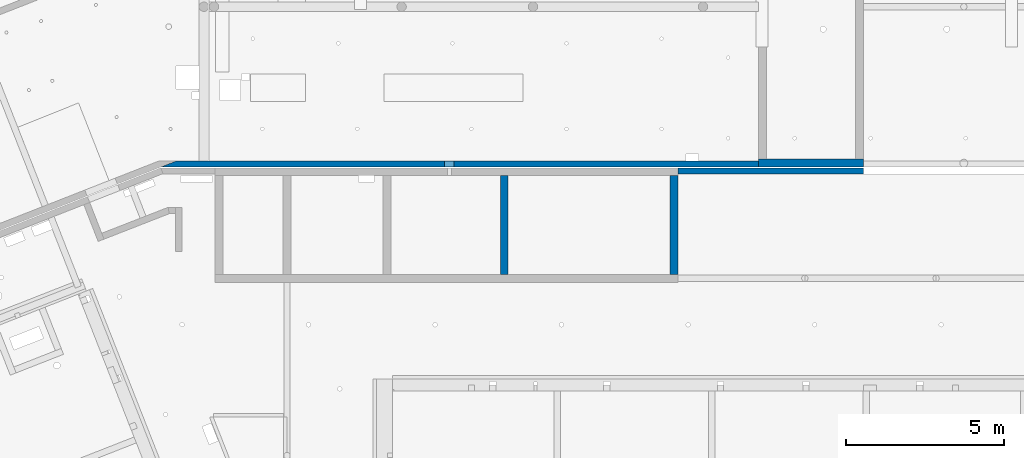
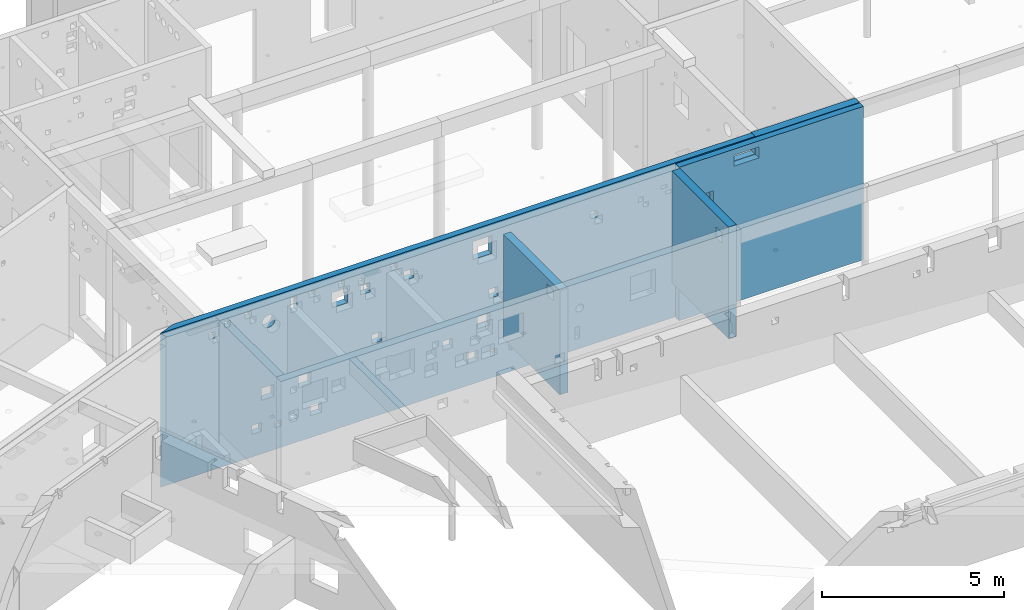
# One storey, part 21 of 28: 5 walls, 43 openings.
"""IFC2X3 building model written with IfcOpenShell, lengths in metres."""

from ifc_helpers import new_model, entity, si_unit, converted_unit, direction, frame, frame_2d, origin, origin_with_axes, place, context, subcontext, project, spatial, polyline, rectangle, outline, extrude, material, layer, layer_set, layer_usage, element, save


model = new_model("IFC2X3")

# Units and contexts
model_context = context("Model", 3, precision=1e-05, world=origin(), true_north=direction((-0.407059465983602, -0.913401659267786)))
body_context = subcontext(model_context, "Body", "Model", "MODEL_VIEW")
ifc_project = project(units=[si_unit("LENGTHUNIT", "METRE"), si_unit("AREAUNIT", "SQUARE_METRE"), si_unit("VOLUMEUNIT", "CUBIC_METRE"), si_unit("MASSUNIT", "GRAM", prefix="KILO"), converted_unit("PLANEANGLEUNIT", "DEGREE", entity("IfcPlaneAngleMeasure", 0.0174532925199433), si_unit("PLANEANGLEUNIT", "RADIAN"), dimensions=[0, 0, 0, 0, 0, 0, 0])], contexts=[model_context])

# Site, buildings, storey
site_placement = place(None, origin())
site = spatial("IfcSite", under=ifc_project, at=site_placement, Name="Site", CompositionType="ELEMENT")
building_1_placement = place(site_placement, origin())
building_1 = spatial("IfcBuilding", under=site, at=building_1_placement, Name="Site", CompositionType="COMPLEX")
building_2_placement = place(building_1_placement, origin())
building_2 = spatial("IfcBuilding", under=building_1, at=building_2_placement, Name="Bâtiments", CompositionType="ELEMENT")
storey_placement = place(building_2_placement, frame((0.0, 0.0, -5.3)))
storey = spatial("IfcBuildingStorey", under=building_2, at=storey_placement, Name="SOUS-SOL", CompositionType="ELEMENT", Elevation=-5.3)

# Wall
ifc_material_1 = material(Name="Béton")
ifc_layer_1 = layer(ifc_material_1, 0.25)
ifc_layer_set_1 = layer_set([ifc_layer_1])
ifc_layer_usage_1 = layer_usage(ifc_layer_set_1, "AXIS2", "POSITIVE", 0.0)
wall_1_placement = place(storey_placement, frame((45.2426440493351, -5.21893030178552, 0.5), z_axis=(0.0, 0.0, 1.0), x_axis=(0.999999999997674, -2.15696744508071e-06, 0.0)))
element("IfcWallStandardCase", 1, at=wall_1_placement, inside=storey, material=ifc_layer_usage_1, context=body_context, shape_type="SweptSolid", body=[
    extrude(rectangle(XDim=3.32205293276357, YDim=0.25, at=frame_2d((1.66102646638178, 0.125), x_axis=(1.0, 0.0))), origin_with_axes(), (0.0, 0.0, 1.0), 4.66),
])

# Wall, openings
ifc_material_2 = material(Name="Béton")
ifc_layer_2 = layer(ifc_material_2, 0.200000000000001)
ifc_layer_set_2 = layer_set([ifc_layer_2])
ifc_layer_usage_2 = layer_usage(ifc_layer_set_2, "AXIS2", "POSITIVE", -0.200000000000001)
wall_2_placement = place(storey_placement, frame((42.6998789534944, -5.43888961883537, 0.0), z_axis=(0.0, 0.0, 1.0), x_axis=(1.0, 4.68204566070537e-10, 0.0)))
wall_2 = element("IfcWallStandardCase", 2, at=wall_2_placement, inside=storey, material=ifc_layer_usage_2, context=body_context, shape_type="SweptSolid", body=[
    extrude(rectangle(XDim=5.86481802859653, YDim=0.200000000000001, at=frame_2d((2.93240901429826, 0.1), x_axis=(1.0, 0.0))), origin_with_axes(), (0.0, 0.0, 1.0), 5.16),
])
opening_1_placement = place(wall_2_placement, frame((2.54276552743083, 0.199999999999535, 4.59), z_axis=(0.0, 0.0, 1.0), x_axis=(-0.999999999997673, 2.15743564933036e-06, 0.0)))
element("IfcOpeningElement", 3, at=opening_1_placement, cuts=wall_2, Name="Percement dans mur", ObjectType="Opening", context=body_context, shape_type="SweptSolid", body=[
    extrude(outline(polyline([(4.31393491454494e-07, 8.86370358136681e-17), (0.799999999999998, 2.16840434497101e-22), (0.800000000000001, 0.200000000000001), (2.50110842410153e-15, 0.2), (4.31393491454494e-07, 8.86370358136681e-17)])), origin_with_axes(), (0.0, 0.0, 1.0), 0.37),
])
opening_2_placement = place(wall_2_placement, frame((0.0366808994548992, -1.76158779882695e-16, 4.39), z_axis=(4.6820456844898e-10, 1.0, 0.0), x_axis=(0.0, 0.0, 1.0)))
element("IfcOpeningElement", 4, at=opening_2_placement, cuts=wall_2, Name="Percement dans mur", ObjectType="Opening", context=body_context, shape_type="SweptSolid", body=[
    extrude(outline(polyline([(0.0, 0.25), (0.25, 0.25), (0.25, 0.0), (0.0, 0.0), (0.0, 0.25)])), origin_with_axes(), (0.0, 0.0, 1.0), 0.200000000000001),
])
opening_3_placement = place(wall_2_placement, frame((0.261527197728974, -5.64372878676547e-08, 4.14), z_axis=(0.0, 0.0, 1.0), x_axis=(0.999999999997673, -2.15743565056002e-06, 0.0)))
element("IfcOpeningElement", 5, at=opening_3_placement, cuts=wall_2, Name="TE-098", ObjectType="Opening", context=body_context, shape_type="SweptSolid", body=[
    extrude(outline(polyline([(4.31393491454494e-07, 8.86375673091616e-17), (0.250000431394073, 0.0), (0.250000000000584, 0.2), (2.25469979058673e-15, 0.2), (4.31393491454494e-07, 8.86375673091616e-17)])), origin_with_axes(), (0.0, 0.0, 1.0), 0.25),
])
opening_4_placement = place(wall_2_placement, frame((0.103879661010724, 2.83677128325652e-07, 3.04), z_axis=(2.15743380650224e-06, 0.999999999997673, 0.0), x_axis=(0.0, 0.0, 1.0)))
element("IfcOpeningElement", 6, at=opening_4_placement, cuts=wall_2, Name="CVC-054", ObjectType="Opening", context=body_context, shape_type="SweptSolid", body=[
    extrude(outline(polyline([(0.0, 1.00000000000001), (0.95, 1.00000000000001), (0.95, 0.0), (0.0, 0.0), (0.0, 1.00000000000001)])), origin_with_axes(), (0.0, 0.0, 1.0), 0.2),
])

ifc_material_3 = material(Name="Béton")
ifc_layer_3 = layer(ifc_material_3, 0.2)
ifc_layer_set_3 = layer_set([ifc_layer_3])
ifc_layer_usage_3 = layer_usage(ifc_layer_set_3, "AXIS2", "POSITIVE", 0.0)
wall_3_placement = place(storey_placement, frame((26.3444156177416, -5.21888953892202, 0.0), z_axis=(0.0, 0.0, 1.0), x_axis=(0.999999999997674, -2.15696744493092e-06, 0.0)))
wall_3 = element("IfcWallStandardCase", 7, at=wall_3_placement, inside=storey, material=ifc_layer_usage_3, context=body_context, shape_type="SweptSolid", body=[
    extrude(outline(polyline([(-8.79241695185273e-11, 4.07628634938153e-05), (18.8982284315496, 4.07628634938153e-05), (18.8982280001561, 0.200040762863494), (0.509737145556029, 0.200040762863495), (-8.79241695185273e-11, 4.07628634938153e-05)])), frame((8.79241695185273e-11, -4.07628634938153e-05, 0.0), z_axis=(0.0, 0.0, 1.0), x_axis=(1.0, 0.0, 0.0)), (0.0, 0.0, 1.0), 5.18),
])
opening_5_placement = place(wall_3_placement, frame((4.34517521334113, 0.200000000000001, 4.41), z_axis=(5.33236743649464e-11, -1.0, 0.0), x_axis=(0.0, 0.0, 1.0)))
element("IfcOpeningElement", 8, at=opening_5_placement, cuts=wall_3, Name="TE-046", ObjectType="Opening", context=body_context, shape_type="SweptSolid", body=[
    extrude(outline(polyline([(0.0, 0.2), (0.5, 0.2), (0.5, 0.0), (0.0, 0.0), (0.0, 0.2)])), origin_with_axes(), (0.0, 0.0, 1.0), 0.200000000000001),
])
opening_6_placement = place(wall_3_placement, frame((18.8982284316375, 0.200000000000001, 4.59), z_axis=(0.0, 0.0, 1.0), x_axis=(-1.0, -1.77635683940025e-16, 0.0)))
element("IfcOpeningElement", 9, at=opening_6_placement, cuts=wall_3, Name="Percement dans mur", ObjectType="Opening", context=body_context, shape_type="SweptSolid", body=[
    extrude(outline(polyline([(4.31393491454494e-07, 8.86370358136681e-17), (0.799999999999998, 2.16840434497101e-22), (0.800000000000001, 0.200000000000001), (2.50110842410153e-15, 0.2), (4.31393491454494e-07, 8.86370358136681e-17)])), origin_with_axes(), (0.0, 0.0, 1.0), 0.37),
])
opening_7_placement = place(wall_3_placement, frame((1.73726358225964, 0.200000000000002, 4.43), z_axis=(5.33202637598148e-11, -1.0, 0.0), x_axis=(0.0, 0.0, 1.0)))
element("IfcOpeningElement", 10, at=opening_7_placement, cuts=wall_3, Name="TE-035", ObjectType="Opening", context=body_context, shape_type="SweptSolid", body=[
    extrude(outline(polyline([(0.0, 0.2), (0.2, 0.2), (0.2, 0.0), (0.0, 0.0), (0.0, 0.2)])), origin_with_axes(), (0.0, 0.0, 1.0), 0.200000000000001),
])
opening_8_placement = place(wall_3_placement, frame((2.22650187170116, 0.200000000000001, 4.64), z_axis=(5.33191268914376e-11, -1.0, 0.0), x_axis=(0.0, 0.0, 1.0)))
element("IfcOpeningElement", 11, at=opening_8_placement, cuts=wall_3, Name="TE-036", ObjectType="Opening", context=body_context, shape_type="SweptSolid", body=[
    extrude(outline(polyline([(0.0, 0.2), (0.2, 0.2), (0.2, 0.0), (0.0, 0.0), (0.0, 0.2)])), origin_with_axes(), (0.0, 0.0, 1.0), 0.200000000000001),
])
opening_9_placement = place(wall_3_placement, frame((2.90962821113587, -8.65982632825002e-16, 0.76), z_axis=(-1.84172677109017e-12, 1.0, 0.0), x_axis=(0.0, 0.0, 1.0)))
element("IfcOpeningElement", 12, at=opening_9_placement, cuts=wall_3, Name="TE-048", ObjectType="Opening", context=body_context, shape_type="SweptSolid", body=[
    extrude(outline(polyline([(0.0, 0.299999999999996), (0.3, 0.299999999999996), (0.3, 0.0), (0.0, 0.0), (0.0, 0.299999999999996)])), origin_with_axes(), (0.0, 0.0, 1.0), 0.200000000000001),
])
opening_10_placement = place(wall_3_placement, frame((3.21411258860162, -2.53047665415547e-06, 1.8), z_axis=(-5.33191268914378e-11, 1.0, 0.0), x_axis=(0.0, 0.0, 1.0)))
element("IfcOpeningElement", 13, at=opening_10_placement, cuts=wall_3, Name="TE-010", ObjectType="Opening", context=body_context, shape_type="SweptSolid", body=[
    extrude(outline(polyline([(0.0, 0.400000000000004), (0.4, 0.400000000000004), (0.4, 0.0), (0.0, 0.0), (0.0, 0.400000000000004)])), origin_with_axes(), (0.0, 0.0, 1.0), 0.2),
])
opening_11_placement = place(wall_3_placement, frame((3.63872864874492, 0.200000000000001, 4.18000000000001), z_axis=(5.33214006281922e-11, -1.0, 0.0), x_axis=(0.0, 0.0, 1.0)))
element("IfcOpeningElement", 14, at=opening_11_placement, cuts=wall_3, Name="CVC-050", ObjectType="Opening", context=body_context, shape_type="SweptSolid", body=[
    extrude(outline(polyline([(0.199999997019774, 0.4), (0.22090569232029, 0.398904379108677), (0.241582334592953, 0.395629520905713), (0.261803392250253, 0.390211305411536), (0.281347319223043, 0.382709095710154), (0.299999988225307, 0.373205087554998), (0.317557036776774, 0.361803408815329), (0.333826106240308, 0.348628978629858), (0.348628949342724, 0.333826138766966), (0.361803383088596, 0.317557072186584), (0.373205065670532, 0.300000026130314), (0.38270907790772, 0.28134735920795), (0.390211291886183, 0.261803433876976), (0.395629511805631, 0.241582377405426), (0.398904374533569, 0.22090573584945), (0.399999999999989, 0.200000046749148), (0.398904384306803, 0.179094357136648), (0.395629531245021, 0.158417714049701), (0.390211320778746, 0.138196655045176), (0.382709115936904, 0.118652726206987), (0.373205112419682, 0.100000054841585), (0.361803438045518, 0.0824430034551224), (0.348629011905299, 0.0661739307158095), (0.333826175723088, 0.0513710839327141), (0.317557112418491, 0.0381966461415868), (0.300000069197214, 0.0267949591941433), (0.281347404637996, 0.0172909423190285), (0.261803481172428, 0.00978872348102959), (0.2415824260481, 0.0043704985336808), (0.220905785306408, 0.00109563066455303), (0.19999990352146, 0.0), (0.179094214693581, 0.00109563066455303), (0.158417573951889, 0.0043704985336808), (0.138196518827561, 0.00978872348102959), (0.118652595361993, 0.0172909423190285), (0.0999999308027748, 0.0267949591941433), (0.0824428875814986, 0.0381966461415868), (0.0661738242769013, 0.0513710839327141), (0.0513709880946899, 0.0661739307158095), (0.0381965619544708, 0.0824430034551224), (0.0267948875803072, 0.100000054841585), (0.0172908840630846, 0.118652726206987), (0.00978867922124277, 0.138196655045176), (0.00437046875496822, 0.158417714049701), (0.00109561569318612, 0.179094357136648), (0.0, 0.200000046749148), (0.00109562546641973, 0.22090573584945), (0.00437048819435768, 0.241582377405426), (0.00978870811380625, 0.261803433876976), (0.0172909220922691, 0.28134735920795), (0.0267949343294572, 0.300000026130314), (0.0381966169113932, 0.317557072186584), (0.0513710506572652, 0.333826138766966), (0.0661738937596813, 0.348628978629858), (0.082442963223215, 0.361803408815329), (0.100000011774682, 0.373205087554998), (0.118652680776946, 0.382709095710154), (0.138196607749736, 0.390211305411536), (0.158417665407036, 0.395629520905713), (0.179094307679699, 0.398904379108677), (0.199999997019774, 0.4)])), origin_with_axes(), (0.0, 0.0, 1.0), 0.2),
])
opening_12_placement = place(wall_3_placement, frame((3.83677843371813, 0.200000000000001, 0.73), z_axis=(5.3321400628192e-11, -1.0, 0.0), x_axis=(0.0, 0.0, 1.0)))
element("IfcOpeningElement", 15, at=opening_12_placement, cuts=wall_3, Name="TE-014", ObjectType="Opening", context=body_context, shape_type="SweptSolid", body=[
    extrude(outline(polyline([(0.0, 0.2), (0.2, 0.2), (0.2, 0.0), (0.0, 0.0), (0.0, 0.2)])), origin_with_axes(), (0.0, 0.0, 1.0), 0.200000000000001),
])
opening_13_placement = place(wall_3_placement, frame((6.48840207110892, 0.200000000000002, 4.58), z_axis=(5.33191268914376e-11, -1.0, 0.0), x_axis=(0.0, 0.0, 1.0)))
element("IfcOpeningElement", 16, at=opening_13_placement, cuts=wall_3, Name="TE-018", ObjectType="Opening", context=body_context, shape_type="SweptSolid", body=[
    extrude(outline(polyline([(0.0, 0.2), (0.2, 0.2), (0.2, 0.0), (0.0, 0.0), (0.0, 0.2)])), origin_with_axes(), (0.0, 0.0, 1.0), 0.200000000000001),
])
opening_14_placement = place(wall_3_placement, frame((6.65795752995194, 0.200000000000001, 4.24), z_axis=(1.84627424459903e-12, -1.0, 0.0), x_axis=(0.0, 0.0, 1.0)))
element("IfcOpeningElement", 17, at=opening_14_placement, cuts=wall_3, Name="TE-053", ObjectType="Opening", context=body_context, shape_type="SweptSolid", body=[
    extrude(outline(polyline([(0.0, 0.3), (0.3, 0.3), (0.3, 0.0), (0.0, 0.0), (0.0, 0.3)])), origin_with_axes(), (0.0, 0.0, 1.0), 0.200000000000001),
])
opening_15_placement = place(wall_3_placement, frame((7.02568880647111, 0.200000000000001, 2.47), z_axis=(1.84172677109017e-12, -1.0, 0.0), x_axis=(0.0, 0.0, 1.0)))
element("IfcOpeningElement", 18, at=opening_15_placement, cuts=wall_3, Name="TE-051", ObjectType="Opening", context=body_context, shape_type="SweptSolid", body=[
    extrude(outline(polyline([(0.0, 0.299999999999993), (0.3, 0.299999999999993), (0.3, 0.0), (0.0, 0.0), (0.0, 0.299999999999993)])), origin_with_axes(), (0.0, 0.0, 1.0), 0.200000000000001),
])
opening_16_placement = place(wall_3_placement, frame((8.17487082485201, 0.2, 4.34), z_axis=(5.33191268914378e-11, -1.0, 0.0), x_axis=(0.0, 0.0, 1.0)))
element("IfcOpeningElement", 19, at=opening_16_placement, cuts=wall_3, Name="TE-063", ObjectType="Opening", context=body_context, shape_type="SweptSolid", body=[
    extrude(outline(polyline([(0.0, 0.0999999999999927), (0.1, 0.0999999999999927), (0.1, 0.0), (0.0, 0.0), (0.0, 0.0999999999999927)])), origin_with_axes(), (0.0, 0.0, 1.0), 0.2),
])
opening_17_placement = place(wall_3_placement, frame((8.04515397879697, 0.20000021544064, 4.24), z_axis=(1.84172677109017e-12, -1.0, 0.0), x_axis=(0.0, 0.0, 1.0)))
element("IfcOpeningElement", 20, at=opening_17_placement, cuts=wall_3, Name="TE-054", ObjectType="Opening", context=body_context, shape_type="SweptSolid", body=[
    extrude(outline(polyline([(0.0, 0.299999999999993), (0.3, 0.299999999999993), (0.3, 0.0), (0.0, 0.0), (0.0, 0.299999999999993)])), origin_with_axes(), (0.0, 0.0, 1.0), 0.200000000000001),
])
opening_18_placement = place(wall_3_placement, frame((13.9016743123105, 0.2, 4.22), z_axis=(1.84627424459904e-12, -1.0, 0.0), x_axis=(0.0, 0.0, 1.0)))
element("IfcOpeningElement", 21, at=opening_18_placement, cuts=wall_3, Name="CVC-053", ObjectType="Opening", context=body_context, shape_type="SweptSolid", body=[
    extrude(outline(polyline([(0.124999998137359, 0.249999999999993), (0.138066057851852, 0.249315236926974), (0.150988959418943, 0.247268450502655), (0.163627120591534, 0.243882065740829), (0.175842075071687, 0.239193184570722), (0.187499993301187, 0.233253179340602), (0.198473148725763, 0.226127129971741), (0.20864131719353, 0.217893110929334), (0.217893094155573, 0.208641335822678), (0.226127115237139, 0.198473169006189), (0.233253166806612, 0.187500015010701), (0.239193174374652, 0.17584209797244), (0.243882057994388, 0.163627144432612), (0.247268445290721, 0.150988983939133), (0.249315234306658, 0.13806608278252), (0.249999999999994, 0.125000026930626), (0.249315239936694, 0.111933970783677), (0.247268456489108, 0.0990110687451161), (0.243882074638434, 0.0863729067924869), (0.239193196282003, 0.0741579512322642), (0.233253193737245, 0.0625000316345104), (0.226127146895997, 0.0515268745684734), (0.217893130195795, 0.0413587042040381), (0.208641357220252, 0.0321069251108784), (0.198473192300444, 0.0238729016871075), (0.187500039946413, 0.0167468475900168), (0.175842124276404, 0.0108068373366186), (0.163627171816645, 0.00611795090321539), (0.150989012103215, 0.00273156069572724), (0.138066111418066, 0.000684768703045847), (0.124999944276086, 0.0), (0.111933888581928, 0.000684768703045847), (0.099010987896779, 0.00273156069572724), (0.0863728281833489, 0.00611795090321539), (0.0741578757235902, 0.0108068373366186), (0.0624999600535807, 0.0167468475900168), (0.0515268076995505, 0.0238729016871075), (0.0413586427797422, 0.0321069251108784), (0.0321068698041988, 0.0413587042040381), (0.0238728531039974, 0.0515268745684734), (0.0167468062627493, 0.0625000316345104), (0.0108068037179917, 0.0741579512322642), (0.00611792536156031, 0.0863729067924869), (0.00273154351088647, 0.0990110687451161), (0.000684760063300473, 0.111933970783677), (0.0, 0.125000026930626), (0.000684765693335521, 0.13806608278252), (0.00273155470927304, 0.150988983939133), (0.00611794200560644, 0.163627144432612), (0.0108068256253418, 0.17584209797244), (0.0167468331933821, 0.187500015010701), (0.0238728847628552, 0.198473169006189), (0.0321069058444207, 0.208641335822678), (0.0413586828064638, 0.217893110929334), (0.0515268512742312, 0.226127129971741), (0.0625000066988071, 0.233253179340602), (0.0741579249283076, 0.239193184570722), (0.0863728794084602, 0.243882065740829), (0.0990110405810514, 0.247268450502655), (0.111933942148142, 0.249315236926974), (0.124999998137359, 0.249999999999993)])), origin_with_axes(), (0.0, 0.0, 1.0), 0.2),
])
opening_19_placement = place(wall_3_placement, frame((16.4593434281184, -2.02421412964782e-16, 3.04), z_axis=(-1.83717929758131e-12, 1.0, 0.0), x_axis=(0.0, 0.0, 1.0)))
element("IfcOpeningElement", 22, at=opening_19_placement, cuts=wall_3, Name="CVC-054", ObjectType="Opening", context=body_context, shape_type="SweptSolid", body=[
    extrude(outline(polyline([(0.0, 1.0), (0.95, 1.0), (0.95, 0.0), (0.0, 0.0), (0.0, 1.0)])), origin_with_axes(), (0.0, 0.0, 1.0), 0.2),
])
opening_20_placement = place(wall_3_placement, frame((16.6169910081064, -6.13745165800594e-17, 4.14), z_axis=(0.0, 0.0, 1.0), x_axis=(1.0, -1.06300895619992e-15, 0.0)))
element("IfcOpeningElement", 23, at=opening_20_placement, cuts=wall_3, Name="TE-098", ObjectType="Opening", context=body_context, shape_type="SweptSolid", body=[
    extrude(outline(polyline([(4.31393491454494e-07, 8.86375673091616e-17), (0.250000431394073, 0.0), (0.250000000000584, 0.2), (2.25469979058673e-15, 0.2), (4.31393491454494e-07, 8.86375673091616e-17)])), origin_with_axes(), (0.0, 0.0, 1.0), 0.25),
])
opening_21_placement = place(wall_3_placement, frame((16.3921442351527, 8.18789480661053e-16, 4.39), z_axis=(-1.83717929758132e-12, 1.0, 0.0), x_axis=(0.0, 0.0, 1.0)))
element("IfcOpeningElement", 24, at=opening_21_placement, cuts=wall_3, Name="TE-070", ObjectType="Opening", context=body_context, shape_type="SweptSolid", body=[
    extrude(outline(polyline([(0.0, 0.25), (0.25, 0.25), (0.25, 0.0), (0.0, 0.0), (0.0, 0.25)])), origin_with_axes(), (0.0, 0.0, 1.0), 0.2),
])
opening_22_placement = place(wall_3_placement, frame((15.9056367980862, -4.80289419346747e-16, 4.45), z_axis=(-5.33236743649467e-11, 1.0, 0.0), x_axis=(0.0, 0.0, 1.0)))
element("IfcOpeningElement", 25, at=opening_22_placement, cuts=wall_3, Name="TE-068", ObjectType="Opening", context=body_context, shape_type="SweptSolid", body=[
    extrude(outline(polyline([(0.0, 0.2), (0.1, 0.2), (0.1, 0.0), (0.0, 0.0), (0.0, 0.2)])), origin_with_axes(), (0.0, 0.0, 1.0), 0.2),
])
opening_23_placement = place(wall_3_placement, frame((15.2006367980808, 1.9893808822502e-17, 4.26), z_axis=(-1.83717929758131e-12, 1.0, 0.0), x_axis=(0.0, 0.0, 1.0)))
element("IfcOpeningElement", 26, at=opening_23_placement, cuts=wall_3, Name="TE-096", ObjectType="Opening", context=body_context, shape_type="SweptSolid", body=[
    extrude(outline(polyline([(0.0, 0.15), (0.15, 0.15), (0.15, 0.0), (0.0, 0.0), (0.0, 0.15)])), origin_with_axes(), (0.0, 0.0, 1.0), 0.200000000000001),
])
opening_24_placement = place(wall_3_placement, frame((12.5612883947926, -3.44210770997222e-16, 1.36), z_axis=(-5.33236743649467e-11, 1.0, 0.0), x_axis=(0.0, 0.0, 1.0)))
element("IfcOpeningElement", 27, at=opening_24_placement, cuts=wall_3, Name="TE-072", ObjectType="Opening", context=body_context, shape_type="SweptSolid", body=[
    extrude(outline(polyline([(0.0, 0.2), (0.2, 0.2), (0.2, 0.0), (0.0, 0.0), (0.0, 0.2)])), origin_with_axes(), (0.0, 0.0, 1.0), 0.2),
])
opening_25_placement = place(wall_3_placement, frame((11.6293156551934, -2.51118570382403e-16, 0.73), z_axis=(-1.84627424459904e-12, 1.0, 0.0), x_axis=(0.0, 0.0, 1.0)))
element("IfcOpeningElement", 28, at=opening_25_placement, cuts=wall_3, Name="TE-050", ObjectType="Opening", context=body_context, shape_type="SweptSolid", body=[
    extrude(outline(polyline([(0.0, 0.35), (0.35, 0.35), (0.35, 0.0), (0.0, 0.0), (0.0, 0.35)])), origin_with_axes(), (0.0, 0.0, 1.0), 0.200000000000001),
])
opening_26_placement = place(wall_3_placement, frame((11.247484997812, 7.83331732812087e-17, 1.8), z_axis=(-5.33145794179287e-11, 1.0, 0.0), x_axis=(0.0, 0.0, 1.0)))
element("IfcOpeningElement", 29, at=opening_26_placement, cuts=wall_3, Name="TE-008", ObjectType="Opening", context=body_context, shape_type="SweptSolid", body=[
    extrude(outline(polyline([(0.0, 0.4), (0.4, 0.4), (0.4, 0.0), (0.0, 0.0), (0.0, 0.4)])), origin_with_axes(), (0.0, 0.0, 1.0), 0.200000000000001),
])
opening_27_placement = place(wall_3_placement, frame((11.0742298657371, 1.07848372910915e-07, 0.73), z_axis=(-5.33145794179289e-11, 1.0, 0.0), x_axis=(0.0, 0.0, 1.0)))
element("IfcOpeningElement", 30, at=opening_27_placement, cuts=wall_3, Name="TE-017", ObjectType="Opening", context=body_context, shape_type="SweptSolid", body=[
    extrude(outline(polyline([(0.0, 0.1), (0.2, 0.1), (0.2, 0.0), (0.0, 0.0), (0.0, 0.1)])), origin_with_axes(), (0.0, 0.0, 1.0), 0.2),
])
opening_28_placement = place(wall_3_placement, frame((10.4356888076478, 1.07848372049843e-07, 2.69), z_axis=(-1.84627424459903e-12, 1.0, 0.0), x_axis=(0.0, 0.0, 1.0)))
element("IfcOpeningElement", 31, at=opening_28_placement, cuts=wall_3, Name="TE-065", ObjectType="Opening", context=body_context, shape_type="SweptSolid", body=[
    extrude(outline(polyline([(0.0, 0.299999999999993), (0.3, 0.299999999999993), (0.3, 0.0), (0.0, 0.0), (0.0, 0.299999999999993)])), origin_with_axes(), (0.0, 0.0, 1.0), 0.200000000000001),
])
opening_29_placement = place(wall_3_placement, frame((10.4971030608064, -6.05978114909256e-15, 0.73), z_axis=(-5.33236743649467e-11, 1.0, 0.0), x_axis=(0.0, 0.0, 1.0)))
element("IfcOpeningElement", 32, at=opening_29_placement, cuts=wall_3, Name="TE-016", ObjectType="Opening", context=body_context, shape_type="SweptSolid", body=[
    extrude(outline(polyline([(0.0, 0.2), (0.2, 0.2), (0.2, 0.0), (0.0, 0.0), (0.0, 0.2)])), origin_with_axes(), (0.0, 0.0, 1.0), 0.2),
])
opening_30_placement = place(wall_3_placement, frame((9.74892821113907, -2.49137516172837e-16, 0.73), z_axis=(-1.83717929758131e-12, 1.0, 0.0), x_axis=(0.0, 0.0, 1.0)))
element("IfcOpeningElement", 33, at=opening_30_placement, cuts=wall_3, Name="TE-049", ObjectType="Opening", context=body_context, shape_type="SweptSolid", body=[
    extrude(outline(polyline([(0.0, 0.35), (0.35, 0.35), (0.35, 0.0), (0.0, 0.0), (0.0, 0.35)])), origin_with_axes(), (0.0, 0.0, 1.0), 0.200000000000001),
])
opening_31_placement = place(wall_3_placement, frame((10.0741009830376, 9.23983112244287e-16, 1.8), z_axis=(-5.33236743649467e-11, 1.0, 0.0), x_axis=(0.0, 0.0, 1.0)))
element("IfcOpeningElement", 34, at=opening_31_placement, cuts=wall_3, Name="TE-007", ObjectType="Opening", context=body_context, shape_type="SweptSolid", body=[
    extrude(outline(polyline([(0.0, 0.4), (0.4, 0.4), (0.4, 0.0), (0.0, 0.0), (0.0, 0.4)])), origin_with_axes(), (0.0, 0.0, 1.0), 0.2),
])
opening_32_placement = place(wall_3_placement, frame((9.93020403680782, 1.26885444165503e-11, 4.18), z_axis=(-1.84627424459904e-12, 1.0, 0.0), x_axis=(0.0, 0.0, 1.0)))
element("IfcOpeningElement", 35, at=opening_32_placement, cuts=wall_3, Name="CVC-052", ObjectType="Opening", context=body_context, shape_type="SweptSolid", body=[
    extrude(outline(polyline([(0.0, 0.6), (0.6, 0.6), (0.6, 0.0), (0.0, 0.0), (0.0, 0.6)])), origin_with_axes(), (0.0, 0.0, 1.0), 0.200000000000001),
])
opening_33_placement = place(wall_3_placement, frame((9.28148046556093, 0.200000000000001, 1.46), z_axis=(1.84627424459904e-12, -1.0, 0.0), x_axis=(0.0, 0.0, 1.0)))
element("IfcOpeningElement", 36, at=opening_33_placement, cuts=wall_3, Name="TE-101", ObjectType="Opening", context=body_context, shape_type="SweptSolid", body=[
    extrude(outline(polyline([(0.0, 0.3), (0.3, 0.3), (0.3, 0.0), (0.0, 0.0), (0.0, 0.3)])), origin_with_axes(), (0.0, 0.0, 1.0), 0.200000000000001),
])
opening_34_placement = place(wall_3_placement, frame((4.76642791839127, -1.79564522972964e-15, 0.73), z_axis=(-1.84627424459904e-12, 1.0, 0.0), x_axis=(0.0, 0.0, 1.0)))
element("IfcOpeningElement", 37, at=opening_34_placement, cuts=wall_3, Name="TE-047", ObjectType="Opening", context=body_context, shape_type="SweptSolid", body=[
    extrude(outline(polyline([(0.0, 0.349999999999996), (0.35, 0.349999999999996), (0.35, 0.0), (0.0, 0.0), (0.0, 0.349999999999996)])), origin_with_axes(), (0.0, 0.0, 1.0), 0.200000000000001),
])
opening_35_placement = place(wall_3_placement, frame((4.38727663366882, -1.37616480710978e-15, 1.8), z_axis=(-5.33191268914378e-11, 1.0, 0.0), x_axis=(0.0, 0.0, 1.0)))
element("IfcOpeningElement", 38, at=opening_35_placement, cuts=wall_3, Name="TE-009", ObjectType="Opening", context=body_context, shape_type="SweptSolid", body=[
    extrude(outline(polyline([(0.0, 0.4), (0.4, 0.4), (0.4, 0.0), (0.0, 0.0), (0.0, 0.4)])), origin_with_axes(), (0.0, 0.0, 1.0), 0.2),
])
opening_36_placement = place(wall_3_placement, frame((4.91517521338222, 0.200000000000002, 4.71), z_axis=(5.33236743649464e-11, -1.0, 0.0), x_axis=(0.0, 0.0, 1.0)))
element("IfcOpeningElement", 39, at=opening_36_placement, cuts=wall_3, Name="TE-086", ObjectType="Opening", context=body_context, shape_type="SweptSolid", body=[
    extrude(outline(polyline([(0.0, 0.200000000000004), (0.2, 0.200000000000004), (0.2, 0.0), (0.0, 0.0), (0.0, 0.200000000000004)])), origin_with_axes(), (0.0, 0.0, 1.0), 0.200000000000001),
])
opening_37_placement = place(wall_3_placement, frame((7.52265894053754, 0.200000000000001, 4.71), z_axis=(5.33191268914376e-11, -1.0, 0.0), x_axis=(0.0, 0.0, 1.0)))
element("IfcOpeningElement", 40, at=opening_37_placement, cuts=wall_3, Name="TE-041", ObjectType="Opening", context=body_context, shape_type="SweptSolid", body=[
    extrude(outline(polyline([(0.0, 0.2), (0.2, 0.2), (0.2, 0.0), (0.0, 0.0), (0.0, 0.2)])), origin_with_axes(), (0.0, 0.0, 1.0), 0.200000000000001),
])
opening_38_placement = place(wall_3_placement, frame((5.44451342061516, 2.05184827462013e-16, 4.13), z_axis=(-1.84172677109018e-12, 1.0, 0.0), x_axis=(0.0, 0.0, 1.0)))
element("IfcOpeningElement", 41, at=opening_38_placement, cuts=wall_3, Name="CVC-051", ObjectType="Opening", context=body_context, shape_type="SweptSolid", body=[
    extrude(outline(polyline([(0.0, 0.5), (0.5, 0.5), (0.5, 0.0), (0.0, 0.0), (0.0, 0.5)])), origin_with_axes(), (0.0, 0.0, 1.0), 0.2),
])
opening_39_placement = place(wall_3_placement, frame((5.85207822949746, 0.199996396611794, 4.71), z_axis=(5.33191268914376e-11, -1.0, 0.0), x_axis=(0.0, 0.0, 1.0)))
element("IfcOpeningElement", 42, at=opening_39_placement, cuts=wall_3, Name="TE-012", ObjectType="Opening", context=body_context, shape_type="SweptSolid", body=[
    extrude(outline(polyline([(0.0, 0.2), (0.2, 0.2), (0.2, 0.0), (0.0, 0.0), (0.0, 0.2)])), origin_with_axes(), (0.0, 0.0, 1.0), 0.200000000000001),
])
opening_40_placement = place(wall_3_placement, frame((2.88380576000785, 0.199999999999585, 4.71), z_axis=(5.33191268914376e-11, -1.0, 0.0), x_axis=(0.0, 0.0, 1.0)))
element("IfcOpeningElement", 43, at=opening_40_placement, cuts=wall_3, Name="TE-011", ObjectType="Opening", context=body_context, shape_type="SweptSolid", body=[
    extrude(outline(polyline([(0.0, 0.200000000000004), (0.2, 0.200000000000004), (0.2, 0.0), (0.0, 0.0), (0.0, 0.200000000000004)])), origin_with_axes(), (0.0, 0.0, 1.0), 0.200000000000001),
])
opening_41_placement = place(wall_3_placement, frame((4.34517521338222, 0.200000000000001, 0.73), z_axis=(5.33236743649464e-11, -1.0, 0.0), x_axis=(0.0, 0.0, 1.0)))
element("IfcOpeningElement", 44, at=opening_41_placement, cuts=wall_3, Name="TE-015", ObjectType="Opening", context=body_context, shape_type="SweptSolid", body=[
    extrude(outline(polyline([(0.0, 0.2), (0.2, 0.2), (0.2, 0.0), (0.0, 0.0), (0.0, 0.2)])), origin_with_axes(), (0.0, 0.0, 1.0), 0.200000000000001),
])

# Wall, opening
ifc_material_4 = material(Name="Béton")
ifc_layer_4 = layer(ifc_material_4, 0.249999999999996)
ifc_layer_set_4 = layer_set([ifc_layer_4])
ifc_layer_usage_4 = layer_usage(ifc_layer_set_4, "AXIS2", "POSITIVE", -0.25)
wall_4_placement = place(storey_placement, frame((42.4498789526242, -5.48888961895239, 1.4), z_axis=(0.0, 0.0, 1.0), x_axis=(-8.45513051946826e-05, -0.999999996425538, 0.0)))
wall_4 = element("IfcWallStandardCase", 45, at=wall_4_placement, inside=storey, material=ifc_layer_usage_4, context=body_context, shape_type="SweptSolid", body=[
    extrude(outline(polyline([(-3.12008599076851, -8.59147847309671e-11), (-1.01612605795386e-06, -8.59147847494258e-11), (-2.11378263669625e-05, 0.249999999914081), (-3.12010712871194, 0.249999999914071), (-3.12008599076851, -8.59147847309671e-11)])), frame((3.12008599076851, 8.59147847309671e-11, 0.0), z_axis=(0.0, 0.0, 1.0), x_axis=(1.0, 0.0, 0.0)), (0.0, 0.0, 1.0), 3.76),
])
opening_42_placement = place(wall_4_placement, frame((2.76155339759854, 0.249999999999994, 3.0), z_axis=(3.63797880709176e-15, -1.0, 0.0), x_axis=(0.0, 0.0, 1.0)))
element("IfcOpeningElement", 46, at=opening_42_placement, cuts=wall_4, Name="TE-074", ObjectType="Opening", context=body_context, shape_type="SweptSolid", body=[
    extrude(outline(polyline([(0.0, 0.350000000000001), (0.35, 0.350000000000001), (0.35, 0.0), (0.0, 0.0), (0.0, 0.350000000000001)])), origin_with_axes(), (0.0, 0.0, 1.0), 0.249999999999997),
])

ifc_material_5 = material(Name="Béton")
ifc_layer_5 = layer(ifc_material_5, 0.25)
ifc_layer_set_5 = layer_set([ifc_layer_5])
ifc_layer_usage_5 = layer_usage(ifc_layer_set_5, "AXIS2", "POSITIVE", -0.125)
wall_5_placement = place(storey_placement, frame((37.3340005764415, -8.60895379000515, 1.4), z_axis=(0.0, 0.0, 1.0), x_axis=(0.0, 1.0, 0.0)))
wall_5 = element("IfcWallStandardCase", 47, at=wall_5_placement, inside=storey, material=ifc_layer_usage_5, context=body_context, shape_type="SweptSolid", body=[
    extrude(outline(polyline([(0.0, -0.25), (3.12006416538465, -0.25), (3.1200641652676, 0.0), (1.01612605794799e-06, 0.0), (0.0, -0.25)])), frame((0.0, 0.25, 0.0), z_axis=(0.0, 0.0, 1.0), x_axis=(1.0, 0.0, 0.0)), (0.0, 0.0, 1.0), 3.51),
])
opening_43_placement = place(wall_5_placement, frame((0.358489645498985, 0.0, 2.96), z_axis=(0.0, 1.0, 0.0), x_axis=(0.0, 0.0, 1.0)))
element("IfcOpeningElement", 48, at=opening_43_placement, cuts=wall_5, Name="TE-075", ObjectType="Opening", context=body_context, shape_type="SweptSolid", body=[
    extrude(outline(polyline([(0.0, 0.349999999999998), (0.35, 0.349999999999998), (0.35, 0.0), (0.0, 0.0), (0.0, 0.349999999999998)])), origin_with_axes(), (0.0, 0.0, 1.0), 0.25),
])

save(model, "model.ifc")
